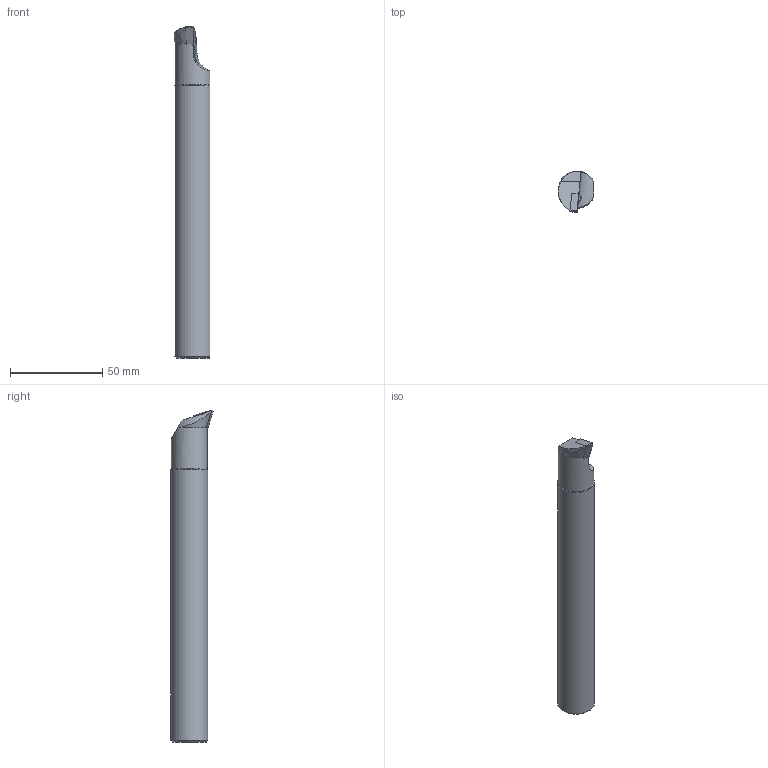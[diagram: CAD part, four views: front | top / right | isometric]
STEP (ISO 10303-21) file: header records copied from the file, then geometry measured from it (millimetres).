
FILE_DESCRIPTION(/* description */ (''),/* implementation_level */ '2;1');
FILE_NAME(/* name */ 'A20Q-SDQCR-11-HAAS.stp',/* time_stamp */ '2021-09-29T11:13:06+09:00',/* author */ (''),/* organization */ (''),/* preprocessor_version */ 'ST-DEVELOPER v16',/* originating_system */ 'SIEMENS PLM Software NX 10.0',/* authorisation */ '');
FILE_SCHEMA (('AUTOMOTIVE_DESIGN { 1 0 10303 214 3 1 1 1 }'));
Length unit declared in the file: millimetre
Products named in the file (1): model2
Bounding box: 19.14 x 22.76 x 179.79 mm (x, y, z)
Volume: 48832.6 mm3; surface area: 14102.6 mm2
Topology: 2 solids, 2 shells, 23 faces, 55 edges, 36 vertices
Faces by surface type: plane 12, cone 5, cylinder 5, bspline 1
Full cylindrical faces by diameter (mm): 2.5 x1, 5 x1
Entity records: 784 total; most frequent: CARTESIAN_POINT 233, DIRECTION 105, ORIENTED_EDGE 104, EDGE_CURVE 52, AXIS2_PLACEMENT_3D 40, VERTEX_POINT 35, EDGE_LOOP 27, LINE 25
